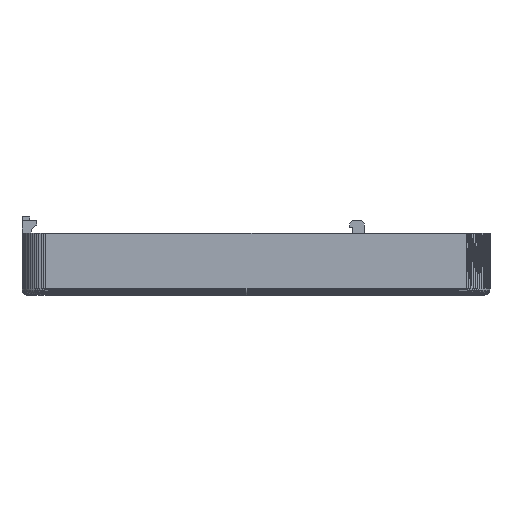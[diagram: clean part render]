
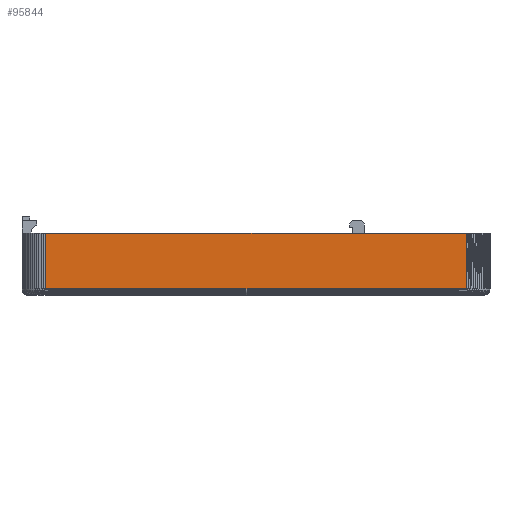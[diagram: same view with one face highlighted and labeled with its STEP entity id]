
A CAD part, left-side view. The second image highlights one B-rep face of the part: STEP entity #95844.
In plain terms, the highlighted planar face has unit normal (-1, 0, 0).
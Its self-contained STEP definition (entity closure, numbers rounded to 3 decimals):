
#3265 = PLANE('',#3266);
#3266 = AXIS2_PLACEMENT_3D('',#3267,#3268,#3269);
#3267 = CARTESIAN_POINT('',(-26.327,34.333,
    9.798));
#3268 = DIRECTION('',(0.,0.,1.));
#3269 = DIRECTION('',(1.,0.,-0.));
#95690 = VERTEX_POINT('',#95691);
#95691 = CARTESIAN_POINT('',(-26.5,-33.252,1.));
#95781 = PLANE('',#95782);
#95782 = AXIS2_PLACEMENT_3D('',#95783,#95784,#95785);
#95783 = CARTESIAN_POINT('',(-26.498,-33.286,
    5.432));
#95784 = DIRECTION('',(-0.999,-0.045,-0.));
#95785 = DIRECTION('',(0.045,-0.999,0.));
#95798 = VERTEX_POINT('',#95799);
#95799 = CARTESIAN_POINT('',(-26.5,-33.252,9.798));
#95819 = EDGE_CURVE('',#95798,#95690,#95820,.T.);
#95820 = SURFACE_CURVE('',#95821,(#95825,#95832),.PCURVE_S1.);
#95821 = LINE('',#95822,#95823);
#95822 = CARTESIAN_POINT('',(-26.5,-33.252,9.798));
#95823 = VECTOR('',#95824,1.);
#95824 = DIRECTION('',(0.,0.,-1.));
#95825 = PCURVE('',#95781,#95826);
#95826 = DEFINITIONAL_REPRESENTATION('',(#95827),#95831);
#95827 = LINE('',#95828,#95829);
#95828 = CARTESIAN_POINT('',(-0.034,4.366));
#95829 = VECTOR('',#95830,1.);
#95830 = DIRECTION('',(0.,-1.));
#95831 = ( GEOMETRIC_REPRESENTATION_CONTEXT(2) 
PARAMETRIC_REPRESENTATION_CONTEXT() REPRESENTATION_CONTEXT('2D SPACE',''
  ) );
#95832 = PCURVE('',#95833,#95838);
#95833 = PLANE('',#95834);
#95834 = AXIS2_PLACEMENT_3D('',#95835,#95836,#95837);
#95835 = CARTESIAN_POINT('',(-26.5,8.941,4.284));
#95836 = DIRECTION('',(-1.,-0.,-0.));
#95837 = DIRECTION('',(0.,0.,-1.));
#95838 = DEFINITIONAL_REPRESENTATION('',(#95839),#95843);
#95839 = LINE('',#95840,#95841);
#95840 = CARTESIAN_POINT('',(-5.514,42.193));
#95841 = VECTOR('',#95842,1.);
#95842 = DIRECTION('',(1.,0.));
#95843 = ( GEOMETRIC_REPRESENTATION_CONTEXT(2) 
PARAMETRIC_REPRESENTATION_CONTEXT() REPRESENTATION_CONTEXT('2D SPACE',''
  ) );
#95844 = ADVANCED_FACE('',(#95845),#95833,.T.);
#95845 = FACE_BOUND('',#95846,.T.);
#95846 = EDGE_LOOP('',(#95847,#95877,#95903,#95904,#95927));
#95847 = ORIENTED_EDGE('',*,*,#95848,.T.);
#95848 = EDGE_CURVE('',#95849,#95851,#95853,.T.);
#95849 = VERTEX_POINT('',#95850);
#95850 = CARTESIAN_POINT('',(-26.5,33.25,1.));
#95851 = VERTEX_POINT('',#95852);
#95852 = CARTESIAN_POINT('',(-26.5,-0.002,1.));
#95853 = SURFACE_CURVE('',#95854,(#95858,#95865),.PCURVE_S1.);
#95854 = LINE('',#95855,#95856);
#95855 = CARTESIAN_POINT('',(-26.5,33.25,1.));
#95856 = VECTOR('',#95857,1.);
#95857 = DIRECTION('',(0.,-1.,0.));
#95858 = PCURVE('',#95833,#95859);
#95859 = DEFINITIONAL_REPRESENTATION('',(#95860),#95864);
#95860 = LINE('',#95861,#95862);
#95861 = CARTESIAN_POINT('',(3.284,-24.309));
#95862 = VECTOR('',#95863,1.);
#95863 = DIRECTION('',(0.,1.));
#95864 = ( GEOMETRIC_REPRESENTATION_CONTEXT(2) 
PARAMETRIC_REPRESENTATION_CONTEXT() REPRESENTATION_CONTEXT('2D SPACE',''
  ) );
#95865 = PCURVE('',#95866,#95871);
#95866 = PLANE('',#95867);
#95867 = AXIS2_PLACEMENT_3D('',#95868,#95869,#95870);
#95868 = CARTESIAN_POINT('',(-26.499,24.926,
    0.989));
#95869 = DIRECTION('',(-0.999,-0.,-0.045));
#95870 = DIRECTION('',(0.045,0.,-0.999));
#95871 = DEFINITIONAL_REPRESENTATION('',(#95872),#95876);
#95872 = LINE('',#95873,#95874);
#95873 = CARTESIAN_POINT('',(-0.011,-8.324));
#95874 = VECTOR('',#95875,1.);
#95875 = DIRECTION('',(0.,1.));
#95876 = ( GEOMETRIC_REPRESENTATION_CONTEXT(2) 
PARAMETRIC_REPRESENTATION_CONTEXT() REPRESENTATION_CONTEXT('2D SPACE',''
  ) );
#95877 = ORIENTED_EDGE('',*,*,#95878,.T.);
#95878 = EDGE_CURVE('',#95851,#95690,#95879,.T.);
#95879 = SURFACE_CURVE('',#95880,(#95884,#95891),.PCURVE_S1.);
#95880 = LINE('',#95881,#95882);
#95881 = CARTESIAN_POINT('',(-26.5,-0.002,1.));
#95882 = VECTOR('',#95883,1.);
#95883 = DIRECTION('',(0.,-1.,0.));
#95884 = PCURVE('',#95833,#95885);
#95885 = DEFINITIONAL_REPRESENTATION('',(#95886),#95890);
#95886 = LINE('',#95887,#95888);
#95887 = CARTESIAN_POINT('',(3.284,8.943));
#95888 = VECTOR('',#95889,1.);
#95889 = DIRECTION('',(0.,1.));
#95890 = ( GEOMETRIC_REPRESENTATION_CONTEXT(2) 
PARAMETRIC_REPRESENTATION_CONTEXT() REPRESENTATION_CONTEXT('2D SPACE',''
  ) );
#95891 = PCURVE('',#95892,#95897);
#95892 = PLANE('',#95893);
#95893 = AXIS2_PLACEMENT_3D('',#95894,#95895,#95896);
#95894 = CARTESIAN_POINT('',(-26.499,-8.325,
    0.989));
#95895 = DIRECTION('',(-0.999,-0.,-0.045));
#95896 = DIRECTION('',(0.045,0.,-0.999));
#95897 = DEFINITIONAL_REPRESENTATION('',(#95898),#95902);
#95898 = LINE('',#95899,#95900);
#95899 = CARTESIAN_POINT('',(-0.011,-8.323));
#95900 = VECTOR('',#95901,1.);
#95901 = DIRECTION('',(0.,1.));
#95902 = ( GEOMETRIC_REPRESENTATION_CONTEXT(2) 
PARAMETRIC_REPRESENTATION_CONTEXT() REPRESENTATION_CONTEXT('2D SPACE',''
  ) );
#95903 = ORIENTED_EDGE('',*,*,#95819,.F.);
#95904 = ORIENTED_EDGE('',*,*,#95905,.T.);
#95905 = EDGE_CURVE('',#95798,#95906,#95908,.T.);
#95906 = VERTEX_POINT('',#95907);
#95907 = CARTESIAN_POINT('',(-26.5,33.25,9.798));
#95908 = SURFACE_CURVE('',#95909,(#95913,#95920),.PCURVE_S1.);
#95909 = LINE('',#95910,#95911);
#95910 = CARTESIAN_POINT('',(-26.5,-33.252,9.798));
#95911 = VECTOR('',#95912,1.);
#95912 = DIRECTION('',(0.,1.,0.));
#95913 = PCURVE('',#95833,#95914);
#95914 = DEFINITIONAL_REPRESENTATION('',(#95915),#95919);
#95915 = LINE('',#95916,#95917);
#95916 = CARTESIAN_POINT('',(-5.514,42.193));
#95917 = VECTOR('',#95918,1.);
#95918 = DIRECTION('',(0.,-1.));
#95919 = ( GEOMETRIC_REPRESENTATION_CONTEXT(2) 
PARAMETRIC_REPRESENTATION_CONTEXT() REPRESENTATION_CONTEXT('2D SPACE',''
  ) );
#95920 = PCURVE('',#3265,#95921);
#95921 = DEFINITIONAL_REPRESENTATION('',(#95922),#95926);
#95922 = LINE('',#95923,#95924);
#95923 = CARTESIAN_POINT('',(-0.173,-67.585));
#95924 = VECTOR('',#95925,1.);
#95925 = DIRECTION('',(0.,1.));
#95926 = ( GEOMETRIC_REPRESENTATION_CONTEXT(2) 
PARAMETRIC_REPRESENTATION_CONTEXT() REPRESENTATION_CONTEXT('2D SPACE',''
  ) );
#95927 = ORIENTED_EDGE('',*,*,#95928,.F.);
#95928 = EDGE_CURVE('',#95849,#95906,#95929,.T.);
#95929 = SURFACE_CURVE('',#95930,(#95934,#95941),.PCURVE_S1.);
#95930 = LINE('',#95931,#95932);
#95931 = CARTESIAN_POINT('',(-26.5,33.25,1.));
#95932 = VECTOR('',#95933,1.);
#95933 = DIRECTION('',(0.,0.,1.));
#95934 = PCURVE('',#95833,#95935);
#95935 = DEFINITIONAL_REPRESENTATION('',(#95936),#95940);
#95936 = LINE('',#95937,#95938);
#95937 = CARTESIAN_POINT('',(3.284,-24.309));
#95938 = VECTOR('',#95939,1.);
#95939 = DIRECTION('',(-1.,0.));
#95940 = ( GEOMETRIC_REPRESENTATION_CONTEXT(2) 
PARAMETRIC_REPRESENTATION_CONTEXT() REPRESENTATION_CONTEXT('2D SPACE',''
  ) );
#95941 = PCURVE('',#95942,#95947);
#95942 = PLANE('',#95943);
#95943 = AXIS2_PLACEMENT_3D('',#95944,#95945,#95946);
#95944 = CARTESIAN_POINT('',(-26.495,33.343,
    5.309));
#95945 = DIRECTION('',(-0.999,0.049,-0.));
#95946 = DIRECTION('',(-0.049,-0.999,0.));
#95947 = DEFINITIONAL_REPRESENTATION('',(#95948),#95952);
#95948 = LINE('',#95949,#95950);
#95949 = CARTESIAN_POINT('',(0.094,-4.309));
#95950 = VECTOR('',#95951,1.);
#95951 = DIRECTION('',(0.,1.));
#95952 = ( GEOMETRIC_REPRESENTATION_CONTEXT(2) 
PARAMETRIC_REPRESENTATION_CONTEXT() REPRESENTATION_CONTEXT('2D SPACE',''
  ) );
